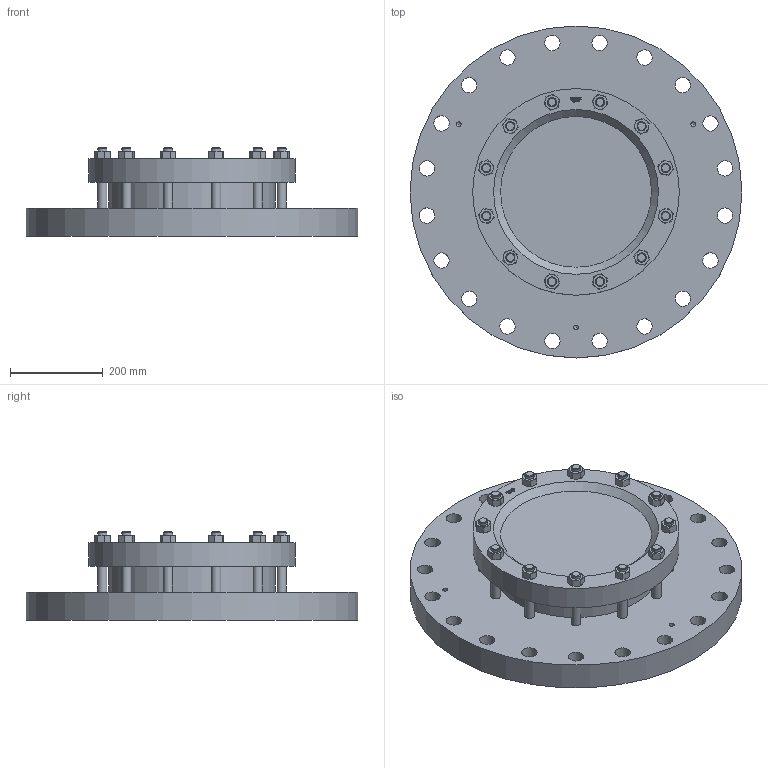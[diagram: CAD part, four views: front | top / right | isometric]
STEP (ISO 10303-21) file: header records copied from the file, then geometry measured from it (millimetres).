
FILE_DESCRIPTION(/* description */ (''),/* implementation_level */ '2;1');
FILE_NAME(/* name */ 'W:\Konstruktion_ACI\325\_STEP\325-500-16.stp',/* time_stamp */ '2022-03-02T17:17:51+01:00',/* author */ ('koslowksi'),/* organization */ (''),/* preprocessor_version */ 'ST-DEVELOPER v16.1',/* originating_system */ 'Autodesk Inventor 2016',/* authorisation */ '');
FILE_SCHEMA (('AUTOMOTIVE_DESIGN { 1 0 10303 214 3 1 1 }'));
Length unit declared in the file: millimetre
Products named in the file (1): 325-500-16
Bounding box: 715 x 715 x 190 mm (x, y, z)
Volume: 35680372 mm3; surface area: 1340692.5 mm2
Topology: 1 solids, 1 shells, 549 faces, 1376 edges, 875 vertices
Faces by surface type: plane 231, cone 160, bspline 108, cylinder 50
Full cylindrical faces by diameter (mm): 10.106 x3, 20 x24, 33 x20, 359 x1, 445 x1, 715 x1
Entity records: 16554 total; most frequent: CARTESIAN_POINT 4645, ORIENTED_EDGE 2550, DIRECTION 1913, EDGE_CURVE 1275, VERTEX_POINT 840, EDGE_LOOP 725, AXIS2_PLACEMENT_3D 700, FACE_OUTER_BOUND 549
